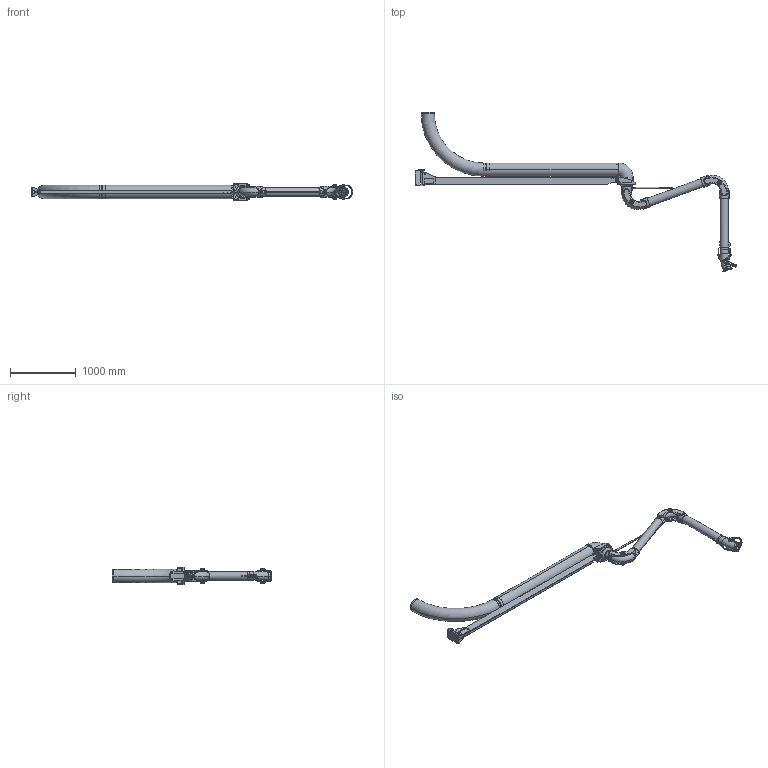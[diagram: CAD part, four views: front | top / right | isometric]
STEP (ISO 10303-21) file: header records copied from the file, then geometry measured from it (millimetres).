
FILE_DESCRIPTION((''),'2;1');
FILE_NAME('138793','2019-03-11T11:13:04',('Gustav Stenberg'),(''),'CREO PARAMETRIC BY PTC INC, 2018260','CREO PARAMETRIC BY PTC INC, 2018260','');
FILE_SCHEMA(('AUTOMOTIVE_DESIGN { 1 0 10303 214 1 1 1 1 }'));
Length unit declared in the file: millimetre
Products named in the file (64): 136203; 136204; 136205; G_PR_TUBE_WALL; 100-6302-02; 100-6302-05; 100-6305-2; 100-6302; 100-6308-1; 100-6308-2; 100-6308-3; 100-6308; 100-6308-7; 100-6308-05; 100-6308-4; 100-6308_RENAME; 138777; LIGHT_SWIVEL_125_AF1; 126193_AF0; G_PRX_SVIVEL_SPRINGMOUNT; 138751_AF0; 124020; 124021; 105-5481_1; 101156_1; 124025_AF0; 124025_AF1; 124025_AF3; 124025_AF2; 124881; 124890; 124865; 125076; 124873; 124947; 126055_AF2; 124960_AF1; 142700; 142472; 199-808-125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
Assembly tree (82 placements, depth 6):
  138793
    136205
      136203
      136204
    138777
      100-6302
        G_PR_TUBE_WALL
        100-6302-02  x2
        100-6302-05
        100-6305-2
      100-6308_RENAME
        100-6308
          100-6308-1
          100-6308-2
          100-6308-3
        100-6308-4
          100-6308-7
          100-6308-05
    124971_AF0
      138751_AF0
        126193_AF0
          LIGHT_SWIVEL_125_AF1
        G_PRX_SVIVEL_SPRINGMOUNT
      124025_AF0
        124020
        124021
        101156_1
          105-5481_1
      124025_AF1
        124020
        124021
        101156_1
          105-5481_1
      124960_AF1
        124025_AF3
          124020
          124021
          101156_1
            105-5481_1
        124025_AF2
          124020
          124021
          101156_1
            105-5481_1
        124881
        124947
          124890
          124873
            124865
            125076
        126055_AF2
      142480_AF0
        142700  x2
        142472  x2
        142857
          199-808-125
          142440
          142441
          142490
        128231
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Bounding box: 4874.5 x 2426.39 x 260 mm (x, y, z)
Volume: 26033567.7 mm3; surface area: 9845138.5 mm2
Topology: 60 solids, 60 shells, 1466 faces, 3618 edges, 2357 vertices
Faces by surface type: cylinder 568, plane 564, cone 136, bspline 110, torus 64, sphere 24
Entity records: 51655 total; most frequent: CARTESIAN_POINT 12421, DIRECTION 5797, ORIENTED_EDGE 5076, PRESENTATION_STYLE_ASSIGNMENT 2578, STYLED_ITEM 2578, EDGE_CURVE 2538, AXIS2_PLACEMENT_3D 2242, CURVE_STYLE 1943
